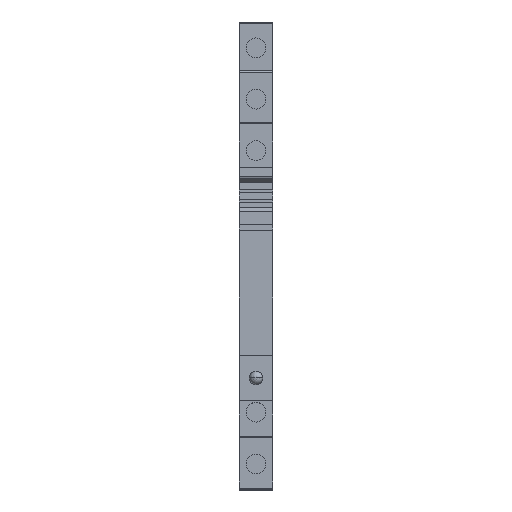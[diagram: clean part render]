
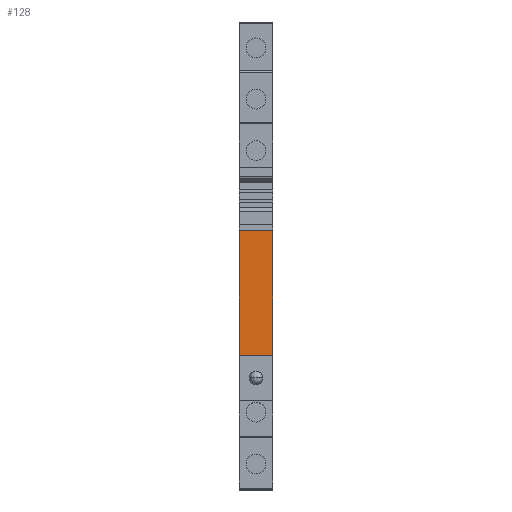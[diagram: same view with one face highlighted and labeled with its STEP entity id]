
A CAD part, top view. The second image highlights one B-rep face of the part: STEP entity #128.
In plain terms, the highlighted planar face has unit normal (0, 0, 1).
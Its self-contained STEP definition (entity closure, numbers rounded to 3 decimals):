
#128=ADVANCED_FACE('',(#344),#345,.T.);
#344=FACE_OUTER_BOUND('',#610,.T.);
#345=PLANE('',#611);
#610=EDGE_LOOP('',(#1275,#1276,#1277,#1278));
#611=AXIS2_PLACEMENT_3D('',#1279,#1280,#1281);
#1275=ORIENTED_EDGE('',*,*,#2054,.T.);
#1276=ORIENTED_EDGE('',*,*,#2055,.F.);
#1277=ORIENTED_EDGE('',*,*,#2056,.F.);
#1278=ORIENTED_EDGE('',*,*,#2052,.T.);
#1279=CARTESIAN_POINT('',(3.1,-7.857,65.857));
#1280=DIRECTION('',(0.,0.,1.0));
#1281=DIRECTION('',(1.0,0.,0.0));
#2052=EDGE_CURVE('',#2567,#2565,#2568,.T.);
#2054=EDGE_CURVE('',#2565,#2570,#2571,.T.);
#2055=EDGE_CURVE('',#2572,#2570,#2573,.T.);
#2056=EDGE_CURVE('',#2567,#2572,#2574,.T.);
#2565=VERTEX_POINT('',#3348);
#2567=VERTEX_POINT('',#3351);
#2568=LINE('',#3352,#3353);
#2570=VERTEX_POINT('',#3356);
#2571=LINE('',#3357,#3358);
#2572=VERTEX_POINT('',#3359);
#2573=LINE('',#3360,#3361);
#2574=LINE('',#3362,#3363);
#3348=CARTESIAN_POINT('',(-3.1,-7.857,65.857));
#3351=CARTESIAN_POINT('',(3.1,-7.857,65.857));
#3352=CARTESIAN_POINT('',(3.1,-7.857,65.857));
#3353=VECTOR('',#4025,1.0);
#3356=CARTESIAN_POINT('',(-3.1,-33.357,65.857));
#3357=CARTESIAN_POINT('',(-3.1,-7.857,65.857));
#3358=VECTOR('',#4027,1.0);
#3359=CARTESIAN_POINT('',(3.1,-33.357,65.857));
#3360=CARTESIAN_POINT('',(3.1,-33.357,65.857));
#3361=VECTOR('',#4028,1.0);
#3362=CARTESIAN_POINT('',(3.1,-7.857,65.857));
#3363=VECTOR('',#4029,1.0);
#4025=DIRECTION('',(-1.0,0.0,0.));
#4027=DIRECTION('',(0.0,-1.0,0.0));
#4028=DIRECTION('',(-1.0,0.0,0.));
#4029=DIRECTION('',(0.0,-1.0,0.0));
